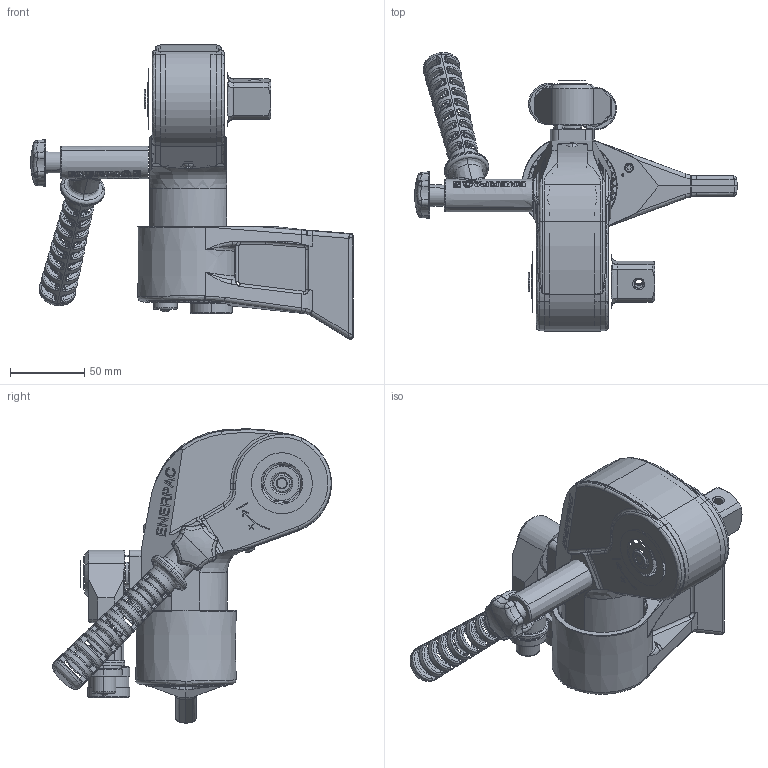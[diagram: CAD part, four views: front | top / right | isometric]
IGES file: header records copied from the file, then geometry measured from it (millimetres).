
Start section:  PTC IGES file: s3000x.igs
Global section: file name: s3000x.igs; native system: Creo Parametric by Parametric Technology Corporation; preprocessor: 2014200; author: david.cox; organization: Unknown; date: 20150401.140352; units: millimetre
Bounding box: 217 x 187.69 x 198.1 mm (x, y, z)
Surface area: 106301.5 mm2 (no closed solid volume)
Topology: 0 solids, 0 shells, 759 faces, 5176 edges, 5157 vertices
Faces by surface type: bspline 384, revolution 375
